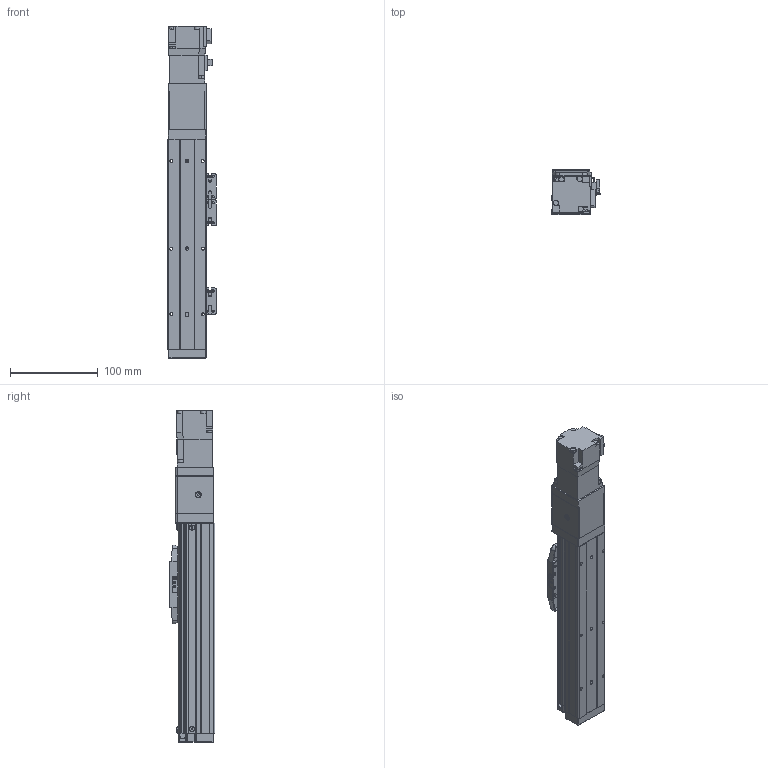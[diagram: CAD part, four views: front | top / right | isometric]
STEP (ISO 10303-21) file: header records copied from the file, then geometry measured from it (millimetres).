
FILE_DESCRIPTION (( 'STEP AP203' ), '1' );
FILE_NAME ('GTH4-100-BC-M05-C4.STEP', '2024-01-05T01:02:11', ( '' ), ( '' ), 'SwSTEP 2.0', 'SolidWorks 2020', '' );
FILE_SCHEMA (( 'CONFIG_CONTROL_DESIGN' ));
Length unit declared in the file: millimetre
Products named in the file (19): GTH4-100-BC-M05-C4; GBT96.1-2002 3×0.8; GBT 70.3-M3℅6; GBT 70.1-M3℅6; BTH40-006; BTH50-028; BTH40-013; BTH50-023; BTH50-024; BTH40-004; BTH40-001-50_BTH40-001-100; BTH40-005-1; BTH40-003; GBT 70.1-M2.5×6; BTH40-022; HG-KR13; BTH40-017_笢俶; BTH-M3X5X6; GBT70.1-2000 M3×16
Assembly tree (49 placements, depth 2):
  GTH4-100-BC-M05-C4
    BTH40-001-50_BTH40-001-100
    BTH40-003
    BTH40-006
    BTH-M3X5X6  x10
    GBT70.1-2000 M3×16  x4
    BTH50-028  x2
    BTH50-023  x3
    BTH50-024  x3
    GBT 70.1-M3℅6  x6
    GBT96.1-2002 3×0.8  x6
    BTH40-022
    GBT 70.1-M2.5×6  x2
    BTH40-004
    BTH40-013
    HG-KR13
    GBT 70.3-M3℅6  x4
    BTH40-017_笢俶
    BTH40-005-1
Bounding box: 55.2 x 52 x 379.4 mm (x, y, z)
Volume: 623608.5 mm3; surface area: 146018.9 mm2
Topology: 51 solids, 51 shells, 1848 faces, 4326 edges, 2670 vertices
Faces by surface type: plane 1026, cylinder 449, cone 237, torus 132, sphere 4
Entity records: 33700 total; most frequent: CARTESIAN_POINT 5451, DIRECTION 5433, ORIENTED_EDGE 5114, EDGE_CURVE 2557, AXIS2_PLACEMENT_3D 1815, LINE 1803, VECTOR 1803, VERTEX_POINT 1601
